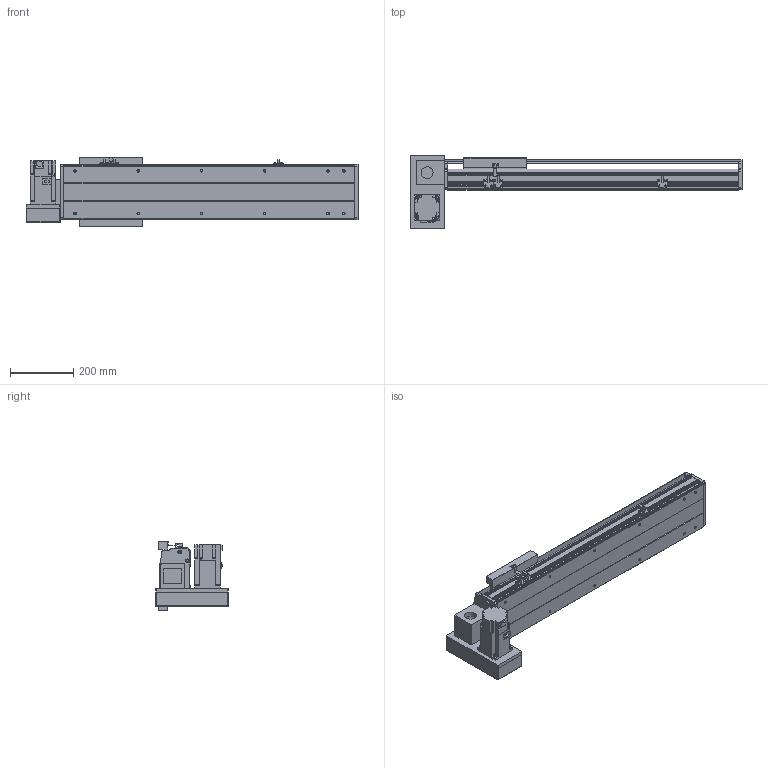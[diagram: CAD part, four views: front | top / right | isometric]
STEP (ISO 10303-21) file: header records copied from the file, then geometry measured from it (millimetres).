
FILE_DESCRIPTION(/* description */ ('STEP AP214'),/* implementation_level */ '2;1');
FILE_NAME(/* name */ 'PBS200-P40-S550-LD-T75-C1-N(0)',/* time_stamp */ '2022-06-11T08:43:35+02:00',/* author */ ('License CC BY-ND 4.0'),/* organization */ ('CADENAS'),/* preprocessor_version */ 'ST-DEVELOPER v18.102',/* originating_system */ 'PARTsolutions',/* authorisation */ ' ');
FILE_SCHEMA (('AUTOMOTIVE_DESIGN {1 0 10303 214 3 1 1}'));
Length unit declared in the file: millimetre
Products named in the file (7): PBS200-P40-S550-LD-T75-C1-N(0); PBS200_sensor; PBS200_plant; PBS200_sliser; T75-p1; PBS200T-LD_motors; PBS200-S550()_body
Assembly tree (8 placements, depth 2):
  PBS200-P40-S550-LD-T75-C1-N(0)
    PBS200_sensor  x3
    PBS200_plant
    PBS200_sliser
    T75-p1
    PBS200T-LD_motors
    PBS200-S550()_body
Bounding box: 1050 x 230 x 221 mm (x, y, z)
Volume: 8426883.4 mm3; surface area: 1376747.5 mm2
Topology: 8 solids, 8 shells, 908 faces, 2354 edges, 1536 vertices
Faces by surface type: plane 570, cylinder 294, cone 44
Full cylindrical faces by diameter (mm): 2.459 x6, 3.242 x4, 4.5 x6, 4.917 x4, 5 x6, 6 x7, 6.6 x8, 6.647 x16, 8 x6, 10 x4, 12 x8, 38 x2, 40 x1, 70 x1
Entity records: 24341 total; most frequent: DIRECTION 4279, CARTESIAN_POINT 4156, ORIENTED_EDGE 3958, EDGE_CURVE 1979, AXIS2_PLACEMENT_3D 1483, VERTEX_POINT 1360, LINE 1313, VECTOR 1313
